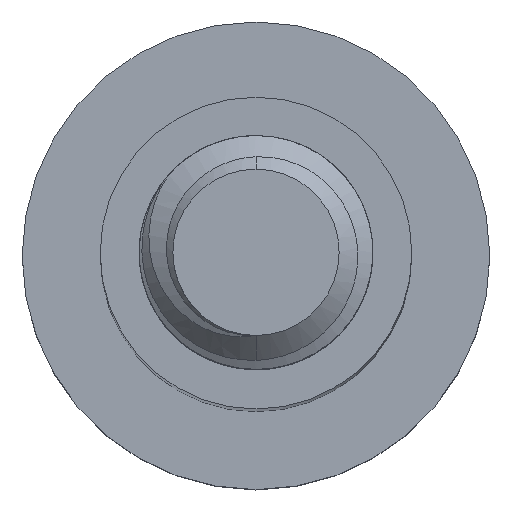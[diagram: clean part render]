
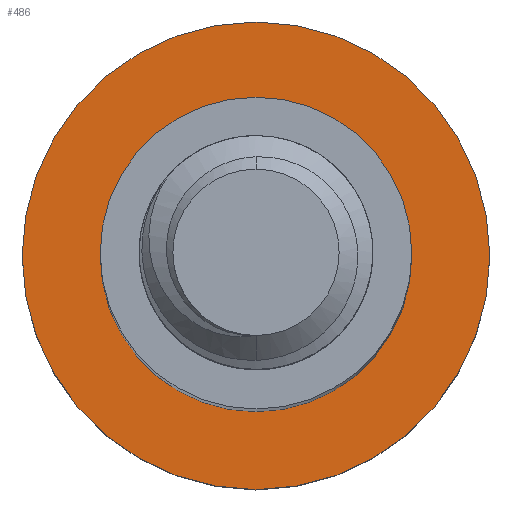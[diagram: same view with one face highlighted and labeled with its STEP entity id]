
A CAD part, top view. The second image highlights one B-rep face of the part: STEP entity #486.
In plain terms, the highlighted planar face has unit normal (0, 0, 1).
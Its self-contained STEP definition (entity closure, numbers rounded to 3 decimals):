
#256 = EDGE_LOOP ( 'NONE', ( #821, #3533 ) ) ;
#280 = ORIENTED_EDGE ( 'NONE', *, *, #4097, .F. ) ;
#342 = CARTESIAN_POINT ( 'NONE',  ( 4., 0., -40. ) ) ;
#352 = CIRCLE ( 'NONE', #2475, 4. ) ;
#419 = DIRECTION ( 'NONE',  ( -1., 0., 0. ) ) ;
#454 = FACE_OUTER_BOUND ( 'NONE', #4257, .T. ) ;
#486 = ADVANCED_FACE ( 'NONE', ( #2090, #454 ), #1813, .F. ) ;
#668 = VERTEX_POINT ( 'NONE', #3858 ) ;
#755 = EDGE_CURVE ( 'NONE', #3663, #668, #1165, .T. ) ;
#821 = ORIENTED_EDGE ( 'NONE', *, *, #971, .T. ) ;
#898 = AXIS2_PLACEMENT_3D ( 'NONE', #1771, #4074, #2109 ) ;
#946 = DIRECTION ( 'NONE',  ( -1., 0., 0. ) ) ;
#971 = EDGE_CURVE ( 'NONE', #668, #3663, #352, .T. ) ;
#1108 = CARTESIAN_POINT ( 'NONE',  ( 0., 0., -40. ) ) ;
#1165 = CIRCLE ( 'NONE', #1924, 4. ) ;
#1361 = DIRECTION ( 'NONE',  ( -1., 0., 0. ) ) ;
#1406 = DIRECTION ( 'NONE',  ( 0., 0., -1. ) ) ;
#1503 = DIRECTION ( 'NONE',  ( 0., 0., -1. ) ) ;
#1578 = CARTESIAN_POINT ( 'NONE',  ( 6., 0., -40. ) ) ;
#1761 = DIRECTION ( 'NONE',  ( -1., 0., 0. ) ) ;
#1771 = CARTESIAN_POINT ( 'NONE',  ( 0., 0., -40. ) ) ;
#1813 = PLANE ( 'NONE',  #898 ) ;
#1832 = VERTEX_POINT ( 'NONE', #2548 ) ;
#1860 = EDGE_CURVE ( 'NONE', #3506, #1832, #3518, .T. ) ;
#1924 = AXIS2_PLACEMENT_3D ( 'NONE', #2241, #1503, #946 ) ;
#2051 = ORIENTED_EDGE ( 'NONE', *, *, #1860, .F. ) ;
#2075 = AXIS2_PLACEMENT_3D ( 'NONE', #3908, #2981, #1361 ) ;
#2090 = FACE_BOUND ( 'NONE', #256, .T. ) ;
#2109 = DIRECTION ( 'NONE',  ( -1., 0., 0. ) ) ;
#2241 = CARTESIAN_POINT ( 'NONE',  ( 0., 0., -40. ) ) ;
#2395 = CARTESIAN_POINT ( 'NONE',  ( 0., 0., -40. ) ) ;
#2475 = AXIS2_PLACEMENT_3D ( 'NONE', #1108, #3700, #1761 ) ;
#2548 = CARTESIAN_POINT ( 'NONE',  ( -6., 0., -40. ) ) ;
#2981 = DIRECTION ( 'NONE',  ( 0., 0., -1. ) ) ;
#3506 = VERTEX_POINT ( 'NONE', #1578 ) ;
#3518 = CIRCLE ( 'NONE', #2075, 6. ) ;
#3533 = ORIENTED_EDGE ( 'NONE', *, *, #755, .T. ) ;
#3585 = CIRCLE ( 'NONE', #4211, 6. ) ;
#3663 = VERTEX_POINT ( 'NONE', #342 ) ;
#3700 = DIRECTION ( 'NONE',  ( 0., 0., -1. ) ) ;
#3858 = CARTESIAN_POINT ( 'NONE',  ( -4., 0., -40. ) ) ;
#3908 = CARTESIAN_POINT ( 'NONE',  ( 0., 0., -40. ) ) ;
#4074 = DIRECTION ( 'NONE',  ( 0., 0., -1. ) ) ;
#4097 = EDGE_CURVE ( 'NONE', #1832, #3506, #3585, .T. ) ;
#4211 = AXIS2_PLACEMENT_3D ( 'NONE', #2395, #1406, #419 ) ;
#4257 = EDGE_LOOP ( 'NONE', ( #2051, #280 ) ) ;
